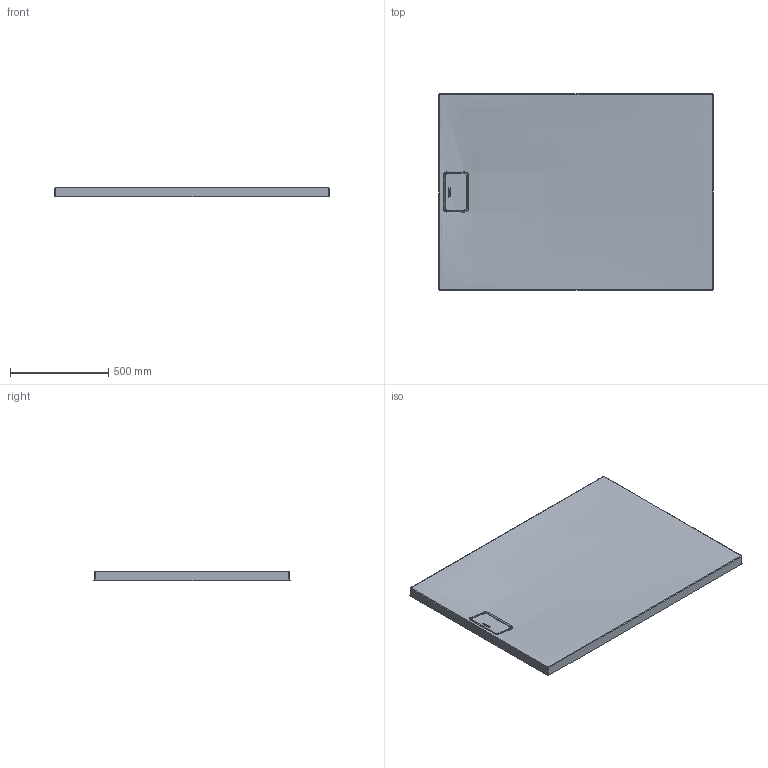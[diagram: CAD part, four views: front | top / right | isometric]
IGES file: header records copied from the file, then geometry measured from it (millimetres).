
Global section: file name: No Iges File Name specified; native system: Autodesk Inventor 2011; preprocessor: AutoDesk Inventor Iges Exporter R2011; author: Administrator; date: 20160824.091915; units: millimetre
Bounding box: 1398 x 998 x 50.22 mm (x, y, z)
Volume: 18323375.8 mm3; surface area: 3432295.5 mm2
Topology: 2 solids, 2 shells, 982 faces, 2476 edges, 1523 vertices
Faces by surface type: bspline 433, plane 299, revolution 112, cylinder 111, torus 14, sphere 10, cone 3
